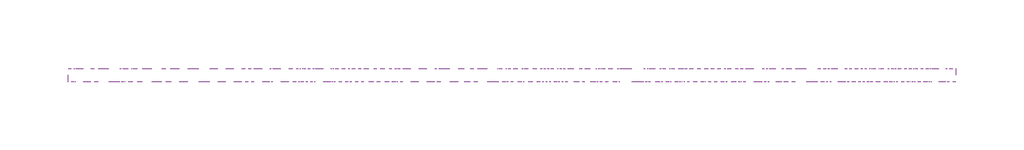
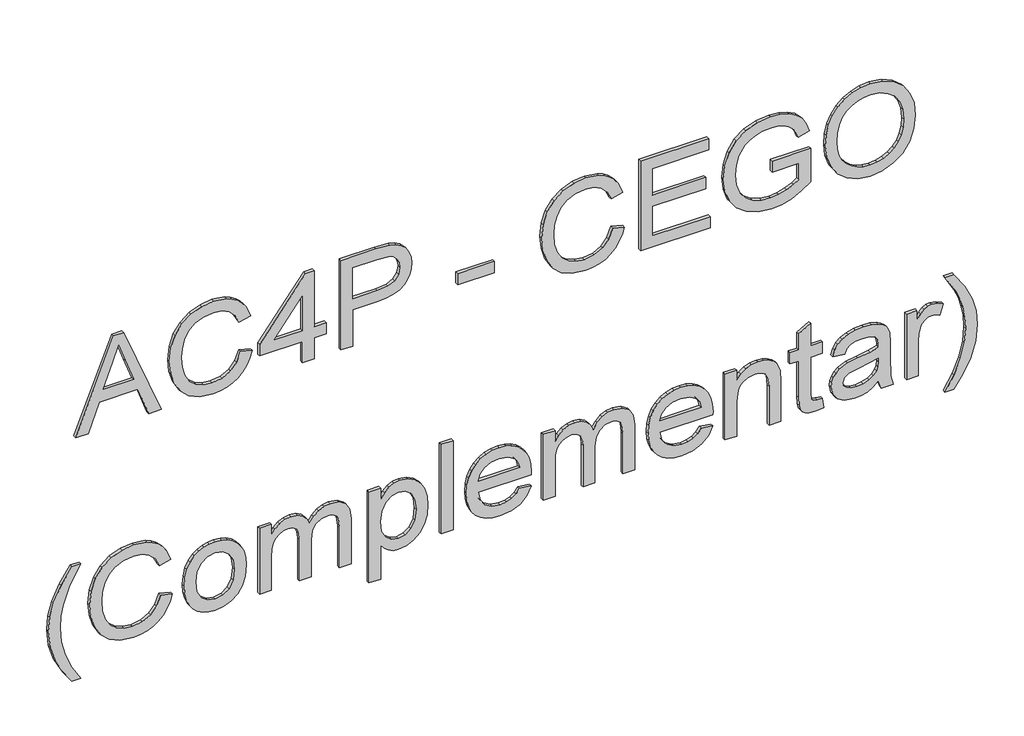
# One storey, part 10 of 12: 1 proxy.
"""IFC4 building model written with IfcOpenShell, lengths in millimetres."""

import ifcopenshell
import ifcopenshell.guid

model = None  # the IFC model being written
_history = None  # IfcOwnerHistory: only IFC2X3 demands one
_inside = {}  # id of a spatial element -> (the spatial element, [elements in it])
_under = {}  # id of a project, library or spatial element -> (it, [spatial elements below it])
_declared = {}  # id of a project -> (the project, [libraries it declares])
_typed = {}  # id of a type object -> (the type object, [elements of that type])
_made_of = {}  # id of a material, layer set ... -> (it, [elements and type objects made of it])


def new_model(schema):
    """Start an empty IFC model of exactly this schema.

    Asked for "IFC4X3", IfcOpenShell would pick the latest addendum, in which some entities
    have other attributes; the version numbers below select the first issue.
    IFC2X3 requires an IfcOwnerHistory on every rooted entity: one is made here for all.
    """
    global model, _history
    if schema == "IFC4X3":
        model = ifcopenshell.file(schema_version=(4, 3, 0, 0))
    else:
        model = ifcopenshell.file(schema=schema)
    _inside.clear()
    _under.clear()
    _declared.clear()
    _typed.clear()
    _made_of.clear()
    _history = None
    if model.schema == "IFC2X3":
        org = make("IfcOrganization", Name="unknown")
        user = make(
            "IfcPersonAndOrganization",
            ThePerson=make("IfcPerson", FamilyName="unknown"),
            TheOrganization=org,
        )
        app = make(
            "IfcApplication",
            ApplicationDeveloper=org,
            Version="unknown",
            ApplicationFullName="unknown",
            ApplicationIdentifier="unknown",
        )
        _history = make(
            "IfcOwnerHistory",
            OwningUser=user,
            OwningApplication=app,
            ChangeAction="ADDED",
            CreationDate=0,
        )
    return model


def make(cls, **values):
    """One entity of the class cls with the attributes given. An attribute that is None is left unset."""
    return model.create_entity(
        cls, **{name: value for name, value in values.items() if value is not None}
    )


def rooted(cls, **values):
    """An entity with a GlobalId (a new one), such as an element, a storey or a relation."""
    return make(cls, GlobalId=ifcopenshell.guid.new(), OwnerHistory=_history, **values)


def si_unit(unit_type, name, prefix=None):
    """IfcSIUnit, for example si_unit("LENGTHUNIT", "METRE", prefix="MILLI")."""
    return make("IfcSIUnit", UnitType=unit_type, Prefix=prefix, Name=name)


def assignment(units):
    """IfcUnitAssignment: the units of a project."""
    return None if units is None else make("IfcUnitAssignment", Units=units)


def point(xyz):
    """IfcCartesianPoint."""
    return None if xyz is None else make("IfcCartesianPoint", Coordinates=xyz)


def direction(xyz):
    """IfcDirection."""
    return None if xyz is None else make("IfcDirection", DirectionRatios=xyz)


def frame(location, z_axis=None, x_axis=None):
    """IfcAxis2Placement3D, a coordinate frame: its origin and axes. An axis left out is left unset."""
    return make(
        "IfcAxis2Placement3D",
        Location=point(location),
        Axis=direction(z_axis),
        RefDirection=direction(x_axis),
    )


def origin():
    """The frame at (0, 0, 0) with its axes left unset."""
    return frame((0.0, 0.0, 0.0))


def place(relative_to, where):
    """IfcLocalPlacement: puts the frame where relative to a parent placement (None: the world)."""
    return make(
        "IfcLocalPlacement", PlacementRelTo=relative_to, RelativePlacement=where
    )


def context(
    kind, dimensions, precision=None, world=None, true_north=None, identifier=None
):
    """IfcGeometricRepresentationContext, for example the 3D "Model" context."""
    return make(
        "IfcGeometricRepresentationContext",
        ContextIdentifier=identifier,
        ContextType=kind,
        CoordinateSpaceDimension=dimensions,
        Precision=precision,
        WorldCoordinateSystem=world,
        TrueNorth=true_north,
    )


def project(units=None, contexts=None):
    """IfcProject with its units and contexts."""
    return rooted(
        "IfcProject",
        Name="project",
        RepresentationContexts=contexts,
        UnitsInContext=assignment(units),
    )


def spatial(cls, under=None, at=None, **own):
    """A site, building, storey or space (cls), placed at a placement, below another one or the project."""
    s = rooted(cls, ObjectPlacement=at, **own)
    if under is not None:
        _under.setdefault(under.id(), (under, []))[1].append(s)
    return s


def polyline(points):
    """IfcPolyline through the points."""
    return make("IfcPolyline", Points=[point(p) for p in points])


def outline(outer, holes=None, kind="AREA"):
    """IfcArbitraryClosedProfileDef: a profile drawn as a closed curve; with holes, ...WithVoids."""
    if holes is None:
        return make("IfcArbitraryClosedProfileDef", ProfileType=kind, OuterCurve=outer)
    return make(
        "IfcArbitraryProfileDefWithVoids",
        ProfileType=kind,
        OuterCurve=outer,
        InnerCurves=holes,
    )


def extrude(swept, where, along, depth):
    """IfcExtrudedAreaSolid: the profile swept, set in the frame where, extruded along a direction by depth."""
    return make(
        "IfcExtrudedAreaSolid",
        SweptArea=swept,
        Position=where,
        ExtrudedDirection=direction(along),
        Depth=depth,
    )


def shape(context_of_items, identifier, shape_type, items):
    """IfcShapeRepresentation: the items that make up one representation, for example the "Body"."""
    return make(
        "IfcShapeRepresentation",
        ContextOfItems=context_of_items,
        RepresentationIdentifier=identifier,
        RepresentationType=shape_type,
        Items=items,
    )


def made_of(thing, what):
    """Note that an element or type object is made of a material, layer set ...; save() writes the relation."""
    if what is not None:
        _made_of.setdefault(what.id(), (what, []))[1].append(thing)
    return thing


def element(
    cls,
    number,
    at=None,
    inside=None,
    cuts=None,
    type_object=None,
    material=None,
    context=None,
    identifier="Body",
    shape_type=None,
    held_by="IfcProductDefinitionShape",
    body=None,
    shapes=None,
    **own,
):
    """One element of the class cls, such as IfcWall. Its Tag is "e" and its number.

    at: its placement. inside: the storey or other place that contains it. cuts: it is an
    opening in that element (IfcRelVoidsElement). A single representation is given by context,
    identifier, shape_type and body (its items); several are given by shapes. held_by: the class
    of the entity that holds the representations. save() writes the other relations.
    """
    e = rooted(cls, Tag="e%d" % number, ObjectPlacement=at, **own)
    if body is not None:
        shapes = [shape(context, identifier, shape_type, body)]
    if shapes is not None:
        e.Representation = make(held_by, Representations=shapes)
    if inside is not None:
        _inside.setdefault(inside.id(), (inside, []))[1].append(e)
    if cuts is not None:
        rooted(
            "IfcRelVoidsElement", RelatingBuildingElement=cuts, RelatedOpeningElement=e
        )
    if type_object is not None:
        _typed.setdefault(type_object.id(), (type_object, []))[1].append(e)
    return made_of(e, material)


def aggregate(whole, parts):
    """IfcRelAggregates: a whole, such as a stair, and the parts it consists of."""
    return rooted("IfcRelAggregates", RelatingObject=whole, RelatedObjects=parts)


def save(model, path):
    """Write the relations noted so far, then the file.

    IfcRelAggregates (storeys below a building ...), IfcRelContainedInSpatialStructure (elements
    in a storey), IfcRelDefinesByType, IfcRelAssociatesMaterial and IfcRelDeclares: one each for
    every whole, place, type object, material and project.
    """
    for whole, parts in _under.values():
        aggregate(whole, parts)
    for where, things in _inside.values():
        rooted(
            "IfcRelContainedInSpatialStructure",
            RelatedElements=things,
            RelatingStructure=where,
        )
    for kind, things in _typed.values():
        rooted("IfcRelDefinesByType", RelatedObjects=things, RelatingType=kind)
    for what, things in _made_of.values():
        rooted("IfcRelAssociatesMaterial", RelatedObjects=things, RelatingMaterial=what)
    for by, libraries in _declared.values():
        rooted("IfcRelDeclares", RelatingContext=by, RelatedDefinitions=libraries)
    model.write(path)


model = new_model("IFC4")

# Units and contexts
model_context = context("Model", 3, world=origin())
ifc_project = project(units=[si_unit("LENGTHUNIT", "METRE", prefix="MILLI")], contexts=[model_context])

# Site, building, storey
site = spatial("IfcSite", under=ifc_project)
building = spatial("IfcBuilding", under=site)
storey = spatial("IfcBuildingStorey", under=building, Name="02 - Marelli - Planta Baixa - Painéis Cego", Elevation=12000.0)

# Proxy
placement = place(None, origin())
element("IfcBuildingElementProxy", 1, Name="300mm Arial", ObjectType="300mm Arial", at=placement, inside=storey, context=model_context, shape_type="SweptSolid", body=[
    extrude(outline(polyline([(17965.9244535, 52481.4076008), (17965.9244535, 52521.2124327), (18060.1022443, 52555.6461874), (18060.1022443, 52679.7695726), (17965.9244535, 52714.2769037), (17965.9244535, 52754.0817356), (18267.293384, 52633.7843232), (18267.293384, 52601.7050132), (17965.9244535, 52481.4076008)]), holes=[polyline([(18097.7733606, 52569.4785504), (18178.3395176, 52598.9826865), (18229.6222677, 52617.7446682), (18171.8647944, 52638.8610947), (18097.7733606, 52666.010786), (18097.7733606, 52569.4785504)])]), frame((0.0, 8778.3159498, 0.0), z_axis=(0.0, 1.0, 0.0), x_axis=(0.0, 0.0, 1.0)), (0.0, 0.0, 1.0), 10.0),
    extrude(outline(polyline([(18073.0516905, 53006.2280551), (18040.7884396, 52994.041964), (18017.5750857, 52974.2591097), (18003.5587816, 52948.0567146), (17998.8866803, 52916.6120011), (18002.3171799, 52889.6370538), (18012.6086787, 52864.6302752), (18029.8347531, 52843.771366), (18054.0689796, 52829.2400272), (18084.1617268, 52820.714362), (18118.9633635, 52817.8724736), (18147.3822477, 52820.2729036), (18174.9550032, 52827.4741937), (18199.3455795, 52840.5983838), (18218.2179258, 52860.7675142), (18230.3028494, 52887.3469884), (18234.3311572, 52919.7022098), (18230.6983225, 52947.7716061), (18219.7998184, 52970.617078), (18200.9550632, 52988.4593547), (18173.4834752, 53001.5191656), (18182.4597959, 53039.1902819), (18220.278065, 53022.5528186), (18235.6003501, 53010.7507044), (18248.5314022, 52996.626335), (18258.7999084, 52980.446425), (18266.1345557, 52962.4776888), (18272.0022735, 52921.1737378), (18267.4681279, 52883.3186805), (18253.8656912, 52848.7745612), (18231.526057, 52819.6475042), (18200.7803193, 52798.043634), (18162.8332915, 52784.6619265), (18118.8897871, 52780.2013573), (18077.2271512, 52784.1468917), (18038.3236302, 52795.9834949), (18005.2326447, 52815.370876), (17981.0076153, 52841.9687443), (17966.1635768, 52876.6692135), (17961.215564, 52920.3643974), (17962.8503396, 52942.786805), (17967.7546665, 52963.4065909), (17975.9285445, 52982.2237549), (17987.3719739, 52999.2382972), (18001.9286046, 53014.1145254), (18019.4420868, 53026.5167471), (18039.9124206, 53036.4449625), (18063.3396059, 53043.8991714), (18073.0516905, 53006.2280551)])), frame((0.0, 8778.3159498, 0.0), z_axis=(0.0, 1.0, 0.0), x_axis=(0.0, 0.0, 1.0)), (0.0, 0.0, 1.0), 10.0),
    extrude(outline(polyline([(17965.9244535, 53204.0014157), (17965.9244535, 53241.672532), (18036.5577966, 53241.672532), (18036.5577966, 53279.3436483), (18074.2289129, 53279.3436483), (18074.2289129, 53241.672532), (18262.5844944, 53241.672532), (18262.5844944, 53213.4191948), (18074.2289129, 53067.4436191), (18036.5577966, 53067.4436191), (18036.5577966, 53204.0014157), (17965.9244535, 53204.0014157)]), holes=[polyline([(18074.2289129, 53204.0014157), (18074.2289129, 53113.7967505), (18190.6267762, 53204.0014157), (18074.2289129, 53204.0014157)])]), frame((0.0, 8778.3159498, 0.0), z_axis=(0.0, 1.0, 0.0), x_axis=(0.0, 0.0, 1.0)), (0.0, 0.0, 1.0), 10.0),
    extrude(outline(polyline([(17965.9244535, 53326.4325437), (17965.9244535, 53364.10366), (18088.3555815, 53364.10366), (18088.3555815, 53440.6966914), (18090.0202476, 53469.8950255), (18095.0142456, 53494.2143247), (18103.3375758, 53513.6545888), (18114.990238, 53528.2158181), (18129.0479287, 53538.8223158), (18144.5863445, 53546.3983857), (18161.6054853, 53550.9440276), (18180.1053511, 53552.4592416), (18201.5620685, 53550.2151614), (18221.19777, 53543.4829209), (18237.8444303, 53533.0626634), (18250.334024, 53519.7545322), (18259.0620243, 53503.2274335), (18264.4239044, 53483.1502737), (18267.293384, 53438.1215175), (18267.293384, 53326.4325437), (17965.9244535, 53326.4325437)]), holes=[polyline([(18126.0266978, 53364.10366), (18229.6222677, 53364.10366), (18229.6222677, 53442.0210666), (18227.0470937, 53479.6921829), (18220.7195234, 53493.9200191), (18209.9773691, 53505.1128288), (18195.7035477, 53512.3693011), (18178.7809759, 53514.7881252), (18156.5057211, 53510.686241), (18139.8590609, 53498.3805883), (18129.4847886, 53476.3076685), (18126.0266978, 53442.9039834), (18126.0266978, 53364.10366)])]), frame((0.0, 8778.3159498, 0.0), z_axis=(0.0, 1.0, 0.0), x_axis=(0.0, 0.0, 1.0)), (0.0, 0.0, 1.0), 10.0),
    extrude(outline(polyline([(53816.1570557, 8778.3159498), (53698.4348172, 8778.3159498), (53698.4348172, 8788.3159498), (53816.1570557, 8788.3159498), (53816.1570557, 8778.3159498)])), frame((0.0, 0.0, 18055.3933548), z_axis=(0.0, 0.0, 1.0), x_axis=(1.0, 0.0, 0.0)), (0.0, 0.0, 1.0), 37.6711163),
    extrude(outline(polyline([(18073.0516905, 54192.8682188), (18040.7884396, 54180.6821277), (18017.5750857, 54160.8992734), (18003.5587816, 54134.6968783), (17998.8866803, 54103.2521647), (18002.3171799, 54076.2772174), (18012.6086787, 54051.2704388), (18029.8347531, 54030.4115297), (18054.0689796, 54015.8801909), (18084.1617268, 54007.3545256), (18118.9633635, 54004.5126372), (18147.3822477, 54006.9130672), (18174.9550032, 54014.1143573), (18199.3455795, 54027.2385475), (18218.2179258, 54047.4076779), (18230.3028494, 54073.987152), (18234.3311572, 54106.3423735), (18230.6983225, 54134.4117697), (18219.7998184, 54157.2572416), (18200.9550632, 54175.0995184), (18173.4834752, 54188.1593292), (18182.4597959, 54225.8304455), (18220.278065, 54209.1929823), (18235.6003501, 54197.390868), (18248.5314022, 54183.2664987), (18258.7999084, 54167.0865887), (18266.1345557, 54149.1178525), (18272.0022735, 54107.8139015), (18267.4681279, 54069.9588442), (18253.8656912, 54035.4147248), (18231.526057, 54006.2876679), (18200.7803193, 53984.6837977), (18162.8332915, 53971.3020901), (18118.8897871, 53966.8415209), (18077.2271512, 53970.7870553), (18038.3236302, 53982.6236585), (18005.2326447, 54002.0110397), (17981.0076153, 54028.6089079), (17966.1635768, 54063.3093771), (17961.215564, 54107.0045611), (17962.8503396, 54129.4269687), (17967.7546665, 54150.0467545), (17975.9285445, 54168.8639186), (17987.3719739, 54185.8784608), (18001.9286046, 54200.754689), (18019.4420868, 54213.1569108), (18039.9124206, 54223.0851261), (18063.3396059, 54230.5393351), (18073.0516905, 54192.8682188)])), frame((0.0, 8778.3159498, 0.0), z_axis=(0.0, 1.0, 0.0), x_axis=(0.0, 0.0, 1.0)), (0.0, 0.0, 1.0), 10.0),
    extrude(outline(polyline([(17965.9244535, 54282.33712), (17965.9244535, 54503.6549283), (18003.5955698, 54503.6549283), (18003.5955698, 54320.0082363), (18102.4822501, 54320.0082363), (18102.4822501, 54489.5282597), (18140.1533665, 54489.5282597), (18140.1533665, 54320.0082363), (18229.6222677, 54320.0082363), (18229.6222677, 54498.9460387), (18267.293384, 54498.9460387), (18267.293384, 54282.33712), (17965.9244535, 54282.33712)])), frame((0.0, 8778.3159498, 0.0), z_axis=(0.0, 1.0, 0.0), x_axis=(0.0, 0.0, 1.0)), (0.0, 0.0, 1.0), 10.0),
    extrude(outline(polyline([(18083.646692, 54701.4282889), (18083.646692, 54786.1883006), (18029.2001567, 54786.1883006), (18018.55917, 54770.1394485), (18008.5619768, 54748.0389377), (18001.3055044, 54722.5907007), (17998.8866803, 54696.4986702), (18002.0964507, 54666.9485489), (18011.7257619, 54639.0722907), (18027.967752, 54615.2519315), (18051.015559, 54597.8695072), (18080.6576508, 54587.2469146), (18116.6824952, 54583.7060504), (18147.4006418, 54586.6491064), (18175.83792, 54595.4782743), (18204.8638094, 54614.8656554), (18216.8015801, 54629.3050237), (18226.2009651, 54647.6807294), (18232.2986092, 54669.909999), (18234.3311572, 54695.910059), (18232.445762, 54718.1209344), (18226.7895763, 54738.2532766), (18217.9971966, 54755.1390602), (18206.7032194, 54767.6102598), (18191.7212251, 54777.0372359), (18171.8647944, 54784.790349), (18181.6504555, 54819.5184093), (18209.4899255, 54809.9258863), (18231.4984659, 54796.7465138), (18248.494614, 54778.9318282), (18261.2969075, 54755.4333658), (18269.325932, 54727.5295164), (18272.0022735, 54696.4986702), (18267.3853545, 54654.2290289), (18253.5345974, 54617.183312), (18230.1832877, 54586.768668), (18197.0647111, 54564.3922457), (18157.581776, 54550.624262), (18115.1373908, 54546.0349341), (18072.9965082, 54550.6426561), (18035.0126922, 54564.4658221), (18003.3472495, 54587.3296881), (17980.1614867, 54619.0595102), (17965.9520447, 54657.2548583), (17961.215564, 54699.5153025), (17964.1954082, 54731.8613269), (17973.1349406, 54763.4164051), (17987.9789791, 54794.1069605), (18008.6723414, 54823.8594169), (18121.3178083, 54823.8594169), (18121.3178083, 54701.4282889), (18083.646692, 54701.4282889)])), frame((0.0, 8778.3159498, 0.0), z_axis=(0.0, 1.0, 0.0), x_axis=(0.0, 0.0, 1.0)), (0.0, 0.0, 1.0), 10.0),
    extrude(outline(polyline([(18112.6357932, 54870.9483123), (18074.0909572, 54875.2525316), (18037.6246544, 54888.1651896), (18005.9316205, 54909.428769), (17981.7065911, 54938.7857522), (17966.3383208, 54974.4335175), (17961.215564, 55014.5694432), (17965.8508771, 55052.3785152), (17979.7568166, 55087.5204428), (18002.6758649, 55117.4844313), (18034.3505046, 55139.7596861), (18072.8125672, 55153.5828521), (18116.093884, 55158.1905741), (18158.8049836, 55153.8127784), (18196.7336173, 55140.6793911), (18228.3530748, 55119.1950826), (18252.1366458, 55089.764523), (18267.0358666, 55054.3190928), (18272.0022735, 55014.7901724), (18269.3581217, 54984.4996886), (18261.4256662, 54957.1246696), (18248.204907, 54932.6651155), (18229.6958441, 54911.1210261), (18206.5146799, 54893.5454638), (18179.2776166, 54880.9914907), (18147.9846544, 54873.4591069), (18112.6357932, 54870.9483123)]), holes=[polyline([(18112.2679112, 54908.6194286), (18142.8044161, 54910.5829987), (18168.6366299, 54916.4737092), (18189.7645528, 54926.2915599), (18206.1881846, 54940.036551), (18218.5007351, 54956.5038688), (18227.2954141, 54974.4886998), (18232.5722214, 54993.9910441), (18234.3311572, 55015.0109016), (18230.6799284, 55044.1747467), (18219.726242, 55070.3035655), (18202.1322856, 55091.9626179), (18178.5602467, 55107.7171644), (18149.7366924, 55117.3188844), (18116.3881896, 55120.5194578), (18089.8501021, 55118.6501574), (18066.5217851, 55113.0422562), (18046.4032385, 55103.6957543), (18029.4944623, 55090.6106516), (18016.1035577, 55074.6284782), (18006.5386258, 55056.5907641), (18000.7996667, 55036.4975094), (17998.8866803, 55014.348714), (18000.7812726, 54992.5723991), (18006.4650494, 54972.7136692), (18015.9380108, 54954.7725241), (18029.2001567, 54938.748964), (18045.759445, 54925.5672922), (18065.1238335, 54916.1518124), (18087.2933223, 54910.5025245), (18112.2679112, 54908.6194286)])]), frame((0.0, 8778.3159498, 0.0), z_axis=(0.0, 1.0, 0.0), x_axis=(0.0, 0.0, 1.0)), (0.0, 0.0, 1.0), 10.0),
    extrude(outline(polyline([(17149.3155348, 52469.4146478), (17149.3155348, 52497.667985), (17197.5540614, 52468.8260366), (17245.8109821, 52448.2246448), (17294.0862969, 52435.8638098), (17342.3800058, 52431.7435314), (17380.2534572, 52434.1163703), (17417.9429677, 52441.2348869), (17475.7740173, 52462.4248898), (17535.4444769, 52497.667985), (17535.4444769, 52469.4146478), (17484.934279, 52434.7233756), (17434.2033518, 52410.4063757), (17389.4137189, 52398.1559053), (17342.600735, 52394.0724151), (17289.2210575, 52399.5354628), (17237.68079, 52415.9246057), (17190.2791949, 52440.2232114), (17149.3155348, 52469.4146478)])), frame((0.0, 8778.3159498, 0.0), z_axis=(0.0, 1.0, 0.0), x_axis=(0.0, 0.0, 1.0)), (0.0, 0.0, 1.0), 10.0),
    extrude(outline(polyline([(17341.2027835, 52751.94802), (17308.9395325, 52739.761929), (17285.7261786, 52719.9790747), (17271.7098746, 52693.7766796), (17267.0377732, 52662.331966), (17270.4682728, 52635.3570187), (17280.7597717, 52610.3502401), (17297.9858461, 52589.491331), (17322.2200725, 52574.9599922), (17352.3128197, 52566.4343269), (17387.1144565, 52563.5924385), (17415.5333406, 52565.9928685), (17443.1060961, 52573.1941586), (17467.4966724, 52586.3183488), (17486.3690188, 52606.4874792), (17498.4539423, 52633.0669533), (17502.4822501, 52665.4221748), (17498.8494154, 52693.491571), (17487.9509113, 52716.3370429), (17469.1061561, 52734.1793197), (17441.6345681, 52747.2391305), (17450.6108888, 52784.9102468), (17488.4291579, 52768.2727836), (17503.751443, 52756.4706693), (17516.6824952, 52742.3463), (17526.9510013, 52726.16639), (17534.2856486, 52708.1976538), (17540.1533665, 52666.8937028), (17535.6192209, 52629.0386455), (17522.0167841, 52594.4945261), (17499.6771499, 52565.3674691), (17468.9314122, 52543.763599), (17430.9843844, 52530.3818914), (17387.0408801, 52525.9213222), (17345.3782441, 52529.8668566), (17306.4747231, 52541.7034598), (17273.3837376, 52561.0908409), (17249.1587083, 52587.6887092), (17234.3146698, 52622.3891784), (17229.3666569, 52666.0843624), (17231.0014325, 52688.50677), (17235.9057594, 52709.1265558), (17244.0796375, 52727.9437199), (17255.5230668, 52744.9582621), (17270.0796975, 52759.8344903), (17287.5931797, 52772.2367121), (17308.0635135, 52782.1649274), (17331.4906988, 52789.6191364), (17341.2027835, 52751.94802)])), frame((0.0, 8778.3159498, 0.0), z_axis=(0.0, 1.0, 0.0), x_axis=(0.0, 0.0, 1.0)), (0.0, 0.0, 1.0), 10.0),
    extrude(outline(polyline([(17344.7344506, 52827.2902527), (17318.4124939, 52828.9986047), (17295.3646869, 52834.1236607), (17275.5910296, 52842.6654208), (17259.0915221, 52854.6238849), (17246.0868936, 52869.350661), (17236.7978732, 52886.1973571), (17231.224461, 52905.1639733), (17229.3666569, 52926.2505094), (17232.7419742, 52952.8391806), (17242.8679261, 52977.2757421), (17259.1007192, 52997.8495427), (17280.7965599, 53012.849931), (17309.767267, 53022.0101927), (17347.8246594, 53025.0636133), (17372.7049786, 53023.3368672), (17394.7388108, 53018.1566288), (17413.9261561, 53009.5228982), (17430.2670145, 52997.4356754), (17443.3199275, 52982.6261259), (17452.6434368, 52965.825415), (17458.2375424, 52947.0335428), (17460.1022443, 52926.2505094), (17458.5709355, 52907.4241483), (17453.9770091, 52890.0877092), (17446.3204651, 52874.2411923), (17435.6013034, 52859.8845974), (17418.830483, 52845.6245716), (17398.095734, 52835.4388389), (17373.3970566, 52829.3273992), (17344.7344506, 52827.2902527)]), holes=[polyline([(17344.808027, 52864.961369), (17378.8830968, 52869.3207706), (17403.1173232, 52882.3989755), (17417.6026768, 52902.0806623), (17422.431128, 52926.2505094), (17417.5842827, 52950.1720361), (17403.0437468, 52969.8445258), (17379.0854319, 52983.0055042), (17345.9852494, 52987.392497), (17311.1468245, 52983.0330953), (17286.535519, 52969.9548904), (17271.9122097, 52950.3099918), (17267.0377732, 52926.2505094), (17271.8846185, 52902.0806623), (17286.4251544, 52882.3989755), (17310.7145631, 52869.3207706), (17344.808027, 52864.961369)])]), frame((0.0, 8778.3159498, 0.0), z_axis=(0.0, 1.0, 0.0), x_axis=(0.0, 0.0, 1.0)), (0.0, 0.0, 1.0), 10.0),
    extrude(outline(polyline([(17234.0755465, 53067.4436191), (17234.0755465, 53105.1147354), (17345.6909438, 53105.1147354), (17371.6082304, 53106.5494752), (17390.6461236, 53110.8536945), (17404.368122, 53118.3584872), (17414.3377241, 53129.3949471), (17420.407777, 53142.7674576), (17422.431128, 53157.2804023), (17419.3961015, 53174.359324), (17410.2910222, 53185.8648334), (17395.0974958, 53192.4039358), (17373.7971282, 53194.5836366), (17234.0755465, 53194.5836366), (17234.0755465, 53232.2547529), (17359.008272, 53232.2547529), (17387.7214617, 53235.94277), (17407.3479662, 53247.006821), (17418.6603375, 53263.6442842), (17422.431128, 53284.0525379), (17420.9596, 53295.6132296), (17416.5450161, 53305.5736346), (17409.7300021, 53313.3175506), (17401.0571841, 53318.2287752), (17369.6032735, 53321.7236542), (17234.0755465, 53321.7236542), (17234.0755465, 53359.3947705), (17385.7900813, 53359.3947705), (17418.7615051, 53355.0813541), (17441.8920855, 53342.1411049), (17455.5497046, 53321.1994223), (17460.1022443, 53292.8817058), (17457.366122, 53273.3563689), (17449.1577549, 53255.7624124), (17435.4771432, 53240.0998365), (17416.3242869, 53226.368641), (17434.7643719, 53218.1648725), (17448.5875379, 53205.6200965), (17457.2235677, 53188.8262834), (17460.1022443, 53167.8754038), (17457.27875, 53148.3224757), (17448.808267, 53131.0136279), (17435.702471, 53116.4455009), (17418.9730372, 53105.1147354), (17455.3933548, 53105.1147354), (17455.3933548, 53067.4436191), (17234.0755465, 53067.4436191)])), frame((0.0, 8778.3159498, 0.0), z_axis=(0.0, 1.0, 0.0), x_axis=(0.0, 0.0, 1.0)), (0.0, 0.0, 1.0), 10.0),
    extrude(outline(polyline([(17149.3155348, 53415.9014449), (17149.3155348, 53453.5725612), (17263.5061061, 53453.5725612), (17249.9956398, 53464.213548), (17239.0419534, 53477.4481027), (17231.785481, 53492.9083436), (17229.3666569, 53510.2263885), (17232.9810975, 53534.6445559), (17243.8244193, 53557.8671069), (17261.4459669, 53577.806311), (17285.3950848, 53592.374438), (17314.2094421, 53601.2863794), (17346.4267078, 53604.2570265), (17376.7217901, 53601.6266702), (17404.4784866, 53593.7356014), (17427.9861461, 53580.6757906), (17445.5341173, 53562.5392082), (17456.4602125, 53540.2639534), (17460.1022443, 53514.7881252), (17457.4994792, 53495.6582615), (17449.6911838, 53479.6186065), (17436.6773583, 53465.8598199), (17418.4580024, 53453.5725612), (17455.3933548, 53453.5725612), (17455.3933548, 53415.9014449), (17149.3155348, 53415.9014449)]), holes=[polyline([(17342.968617, 53453.5725612), (17377.1356573, 53457.9227658), (17402.0872537, 53470.9733796), (17417.3451594, 53489.670982), (17422.431128, 53510.9621525), (17417.6486621, 53532.1705495), (17403.3012642, 53550.1783732), (17379.3521464, 53562.4840259), (17345.7645202, 53566.5859102), (17310.7237602, 53562.3828584), (17286.2412134, 53549.773703), (17271.8386333, 53531.2784357), (17267.0377732, 53509.4170481), (17271.6730864, 53487.9051484), (17285.5790258, 53469.8697336), (17309.1970499, 53457.6468543), (17342.968617, 53453.5725612)])]), frame((0.0, 8778.3159498, 0.0), z_axis=(0.0, 1.0, 0.0), x_axis=(0.0, 0.0, 1.0)), (0.0, 0.0, 1.0), 10.0),
    extrude(outline(polyline([(53684.3081486, 8778.3159498), (53646.6370323, 8778.3159498), (53646.6370323, 8788.3159498), (53684.3081486, 8788.3159498), (53684.3081486, 8778.3159498)])), frame((0.0, 0.0, 17234.0755465), z_axis=(0.0, 0.0, 1.0), x_axis=(1.0, 0.0, 0.0)), (0.0, 0.0, 1.0), 301.3689304),
    extrude(outline(polyline([(17300.0, 53895.7667195), (17285.1191733, 53885.2085062), (17274.9104479, 53871.4865078), (17269.0059419, 53854.6007242), (17267.0377732, 53834.5511555), (17271.2868103, 53807.8889079), (17284.0339214, 53786.0275203), (17304.7640718, 53770.8799791), (17332.9622268, 53764.3592708), (17332.9622268, 53933.658565), (17343.1157698, 53933.8792942), (17369.3687487, 53932.0927672), (17392.5039277, 53926.7331864), (17412.5213067, 53917.8005517), (17429.4208859, 53905.2948631), (17442.8439802, 53889.9748773), (17452.4319047, 53872.5993508), (17458.1846594, 53853.1682837), (17460.1022443, 53831.6816759), (17458.1800609, 53809.4799975), (17452.4135106, 53789.4488228), (17442.8025935, 53771.588152), (17429.3473095, 53755.8979849), (17412.4109422, 53743.1186841), (17392.3567749, 53733.9906121), (17369.1848077, 53728.5137689), (17342.8950406, 53726.6881545), (17317.467497, 53728.4953748), (17295.0427901, 53733.9170357), (17275.62092, 53742.9531372), (17259.2018867, 53755.6036793), (17246.1489737, 53771.3352331), (17236.8254644, 53789.6143697), (17231.2313588, 53810.4410892), (17229.3666569, 53833.8153915), (17233.6892704, 53869.4723538), (17246.6571107, 53898.1579524), (17267.4608375, 53919.3939406), (17295.2911105, 53932.7020718), (17300.0, 53895.7667195)]), holes=[polyline([(17370.6333431, 53764.3592708), (17391.8693312, 53770.5488853), (17408.3412476, 53785.1446035), (17418.9086579, 53806.1414684), (17422.431128, 53831.5345231), (17418.0165441, 53859.1624609), (17404.7727922, 53881.125016), (17390.535759, 53891.1130122), (17370.6333431, 53896.2081778), (17370.6333431, 53764.3592708)])]), frame((0.0, 8778.3159498, 0.0), z_axis=(0.0, 1.0, 0.0), x_axis=(0.0, 0.0, 1.0)), (0.0, 0.0, 1.0), 10.0),
    extrude(outline(polyline([(17234.0755465, 53971.5504105), (17234.0755465, 54009.2215268), (17345.6909438, 54009.2215268), (17371.6082304, 54010.6562665), (17390.6461236, 54014.9604859), (17404.368122, 54022.4652786), (17414.3377241, 54033.5017384), (17420.407777, 54046.874249), (17422.431128, 54061.3871937), (17419.3961015, 54078.4661153), (17410.2910222, 54089.9716247), (17395.0974958, 54096.5107272), (17373.7971282, 54098.690428), (17234.0755465, 54098.690428), (17234.0755465, 54136.3615443), (17359.008272, 54136.3615443), (17387.7214617, 54140.0495613), (17407.3479662, 54151.1136123), (17418.6603375, 54167.7510755), (17422.431128, 54188.1593292), (17420.9596, 54199.7200209), (17416.5450161, 54209.6804259), (17409.7300021, 54217.4243419), (17401.0571841, 54222.3355666), (17369.6032735, 54225.8304455), (17234.0755465, 54225.8304455), (17234.0755465, 54263.5015618), (17385.7900813, 54263.5015618), (17418.7615051, 54259.1881454), (17441.8920855, 54246.2478963), (17455.5497046, 54225.3062137), (17460.1022443, 54196.9884971), (17457.366122, 54177.4631602), (17449.1577549, 54159.8692038), (17435.4771432, 54144.2066278), (17416.3242869, 54130.4754324), (17434.7643719, 54122.2716639), (17448.5875379, 54109.7268878), (17457.2235677, 54092.9330748), (17460.1022443, 54071.9821951), (17457.27875, 54052.4292671), (17448.808267, 54035.1204192), (17435.702471, 54020.5522922), (17418.9730372, 54009.2215268), (17455.3933548, 54009.2215268), (17455.3933548, 53971.5504105), (17234.0755465, 53971.5504105)])), frame((0.0, 8778.3159498, 0.0), z_axis=(0.0, 1.0, 0.0), x_axis=(0.0, 0.0, 1.0)), (0.0, 0.0, 1.0), 10.0),
    extrude(outline(polyline([(17300.0, 54474.9601327), (17285.1191733, 54464.4019194), (17274.9104479, 54450.679921), (17269.0059419, 54433.7941374), (17267.0377732, 54413.7445687), (17271.2868103, 54387.0823211), (17284.0339214, 54365.2209335), (17304.7640718, 54350.0733923), (17332.9622268, 54343.552684), (17332.9622268, 54512.8519782), (17343.1157698, 54513.0727074), (17369.3687487, 54511.2861804), (17392.5039277, 54505.9265996), (17412.5213067, 54496.9939649), (17429.4208859, 54484.4882763), (17442.8439802, 54469.1682905), (17452.4319047, 54451.792764), (17458.1846594, 54432.3616969), (17460.1022443, 54410.8750891), (17458.1800609, 54388.6734107), (17452.4135106, 54368.6422361), (17442.8025935, 54350.7815652), (17429.3473095, 54335.0913981), (17412.4109422, 54322.3120973), (17392.3567749, 54313.1840253), (17369.1848077, 54307.7071821), (17342.8950406, 54305.8815677), (17317.467497, 54307.688788), (17295.0427901, 54313.1104489), (17275.62092, 54322.1465504), (17259.2018867, 54334.7970925), (17246.1489737, 54350.5286463), (17236.8254644, 54368.8077829), (17231.2313588, 54389.6345024), (17229.3666569, 54413.0088047), (17233.6892704, 54448.6657671), (17246.6571107, 54477.3513656), (17267.4608375, 54498.5873538), (17295.2911105, 54511.895485), (17300.0, 54474.9601327)]), holes=[polyline([(17370.6333431, 54343.552684), (17391.8693312, 54349.7422985), (17408.3412476, 54364.3380167), (17418.9086579, 54385.3348816), (17422.431128, 54410.7279363), (17418.0165441, 54438.3558741), (17404.7727922, 54460.3184292), (17390.535759, 54470.3064254), (17370.6333431, 54475.4015911), (17370.6333431, 54343.552684)])]), frame((0.0, 8778.3159498, 0.0), z_axis=(0.0, 1.0, 0.0), x_axis=(0.0, 0.0, 1.0)), (0.0, 0.0, 1.0), 10.0),
    extrude(outline(polyline([(17234.0755465, 54550.7438237), (17234.0755465, 54588.41494), (17351.5034793, 54588.41494), (17386.2131456, 54592.7099623), (17398.5877762, 54598.0787401), (17407.6422718, 54605.5950291), (17418.7339139, 54624.4029961), (17422.431128, 54646.4667188), (17420.7848561, 54660.3634612), (17415.8460403, 54672.3288231), (17408.1481095, 54681.6638287), (17398.2244927, 54687.6695023), (17364.8943839, 54692.0105098), (17234.0755465, 54692.0105098), (17234.0755465, 54729.6816261), (17369.9711555, 54729.6816261), (17406.391473, 54727.6950633), (17434.0929872, 54716.4010861), (17444.6328064, 54706.3027253), (17452.9285454, 54692.1208744), (17458.3088196, 54675.1155292), (17460.1022443, 54656.5466855), (17457.8765582, 54635.5682147), (17451.1995, 54617.2201002), (17440.0710697, 54601.5023419), (17424.4912672, 54588.41494), (17455.3933548, 54588.41494), (17455.3933548, 54550.7438237), (17234.0755465, 54550.7438237)])), frame((0.0, 8778.3159498, 0.0), z_axis=(0.0, 1.0, 0.0), x_axis=(0.0, 0.0, 1.0)), (0.0, 0.0, 1.0), 10.0),
    extrude(outline(polyline([(17265.4926689, 54861.5305332), (17267.0377732, 54845.1229962), (17269.576159, 54832.2839146), (17276.4555523, 54825.8459797), (17295.8797217, 54823.8594169), (17417.7222385, 54823.8594169), (17417.7222385, 54861.5305332), (17455.3933548, 54861.5305332), (17455.3933548, 54823.8594169), (17531.3241986, 54823.8594169), (17509.1777025, 54786.1883006), (17455.3933548, 54786.1883006), (17455.3933548, 54757.9349633), (17417.7222385, 54757.9349633), (17417.7222385, 54786.1883006), (17294.7760757, 54786.1883006), (17267.7919313, 54787.3287348), (17252.0281878, 54790.7500373), (17242.849532, 54796.967243), (17235.6206508, 54806.4953867), (17230.9301554, 54819.9782618), (17229.3666569, 54838.0596619), (17232.9719005, 54866.2394227), (17265.4926689, 54861.5305332)])), frame((0.0, 8778.3159498, 0.0), z_axis=(0.0, 1.0, 0.0), x_axis=(0.0, 0.0, 1.0)), (0.0, 0.0, 1.0), 10.0),
    extrude(outline(polyline([(17262.3288837, 55040.4683356), (17234.0755465, 55049.8861147), (17234.0755465, 55087.557231), (17265.7501862, 55080.0524383), (17331.1963932, 55078.1394519), (17378.0645594, 55078.1394519), (17411.0267861, 55076.300042), (17425.1442577, 55071.7566993), (17436.5945848, 55064.7485473), (17445.856014, 55054.181137), (17453.406792, 55038.9600195), (17458.4283812, 55018.772495), (17460.1022443, 54993.3058639), (17458.207652, 54966.7539809), (17452.5238752, 54943.6050063), (17443.3452194, 54924.6774777), (17430.9659903, 54910.7899323), (17414.7791825, 54901.0318624), (17394.1777908, 54894.49276), (17389.4689012, 54932.1638763), (17405.1314772, 54939.6502749), (17415.1838527, 54950.3372468), (17420.6193092, 54966.0090198), (17422.431128, 54988.4498215), (17419.7088012, 55012.693245), (17411.5418209, 55030.0940634), (17400.5421493, 55037.8747676), (17383.7299421, 55040.4683356), (17375.3422326, 55040.2476064), (17368.3524747, 55013.429009), (17362.3927864, 54974.9117641), (17356.7274037, 54942.3174193), (17344.3665686, 54915.9402803), (17334.8752131, 54905.3360818), (17322.7351073, 54896.9943575), (17308.5532564, 54891.5864922), (17292.9366657, 54889.7838704), (17267.6079903, 54894.5571393), (17247.2457219, 54908.876946), (17233.8364232, 54932.0994969), (17229.3666569, 54963.5809987), (17231.224461, 54984.4491048), (17236.7978732, 55003.9376535), (17246.896234, 55022.469709), (17262.3288837, 55040.4683356)]), holes=[polyline([(17337.6711163, 55040.4683356), (17327.0025384, 55040.2476064), (17310.0799667, 55038.7576844), (17297.8662844, 55034.2879181), (17286.0112871, 55024.2079515), (17276.0508821, 55009.7134008), (17269.2910505, 54991.8343359), (17267.0377732, 54971.6008261), (17269.0795183, 54952.5169476), (17275.2047535, 54938.6753876), (17284.3834093, 54930.2600869), (17295.5854161, 54927.4549867), (17310.0799667, 54932.6053347), (17320.0127805, 54947.2838263), (17326.1196217, 54979.69423), (17337.6711163, 55040.4683356)])]), frame((0.0, 8778.3159498, 0.0), z_axis=(0.0, 1.0, 0.0), x_axis=(0.0, 0.0, 1.0)), (0.0, 0.0, 1.0), 10.0),
    extrude(outline(polyline([(17234.0755465, 55129.9372369), (17234.0755465, 55167.6083532), (17350.3998333, 55167.6083532), (17373.3556698, 55169.1350635), (17394.39852, 55173.7151943), (17406.1339556, 55179.1690449), (17414.9999117, 55187.2900399), (17420.5733239, 55197.3424154), (17422.431128, 55208.5904074), (17420.4997475, 55221.8341593), (17414.7056061, 55235.0779111), (17448.4771733, 55247.6594753), (17457.1959765, 55228.603188), (17460.1022443, 55209.8412062), (17458.2812284, 55197.5539476), (17452.8181808, 55186.2967585), (17441.6345681, 55175.0763577), (17422.6518572, 55162.8994636), (17455.3933548, 55162.8994636), (17455.3933548, 55129.9372369), (17234.0755465, 55129.9372369)])), frame((0.0, 8778.3159498, 0.0), z_axis=(0.0, 1.0, 0.0), x_axis=(0.0, 0.0, 1.0)), (0.0, 0.0, 1.0), 10.0),
    extrude(outline(polyline([(17149.3155348, 55280.6217021), (17190.2791949, 55309.6751827), (17237.68079, 55334.0013796), (17289.2210575, 55350.4732959), (17342.600735, 55355.9639347), (17389.4137189, 55351.8804446), (17434.2033518, 55339.6299741), (17484.934279, 55315.3129742), (17535.4444769, 55280.6217021), (17535.4444769, 55252.3683649), (17475.1854061, 55287.8321892), (17446.8400984, 55299.8067481), (17417.2807801, 55308.8014629), (17379.9775458, 55315.9199795), (17342.3800058, 55318.2928184), (17294.0862969, 55314.1725401), (17245.8109821, 55301.811705), (17197.5540614, 55281.2103133), (17149.3155348, 55252.3683649), (17149.3155348, 55280.6217021)])), frame((0.0, 8778.3159498, 0.0), z_axis=(0.0, 1.0, 0.0), x_axis=(0.0, 0.0, 1.0)), (0.0, 0.0, 1.0), 10.0),
])

save(model, "model.ifc")
